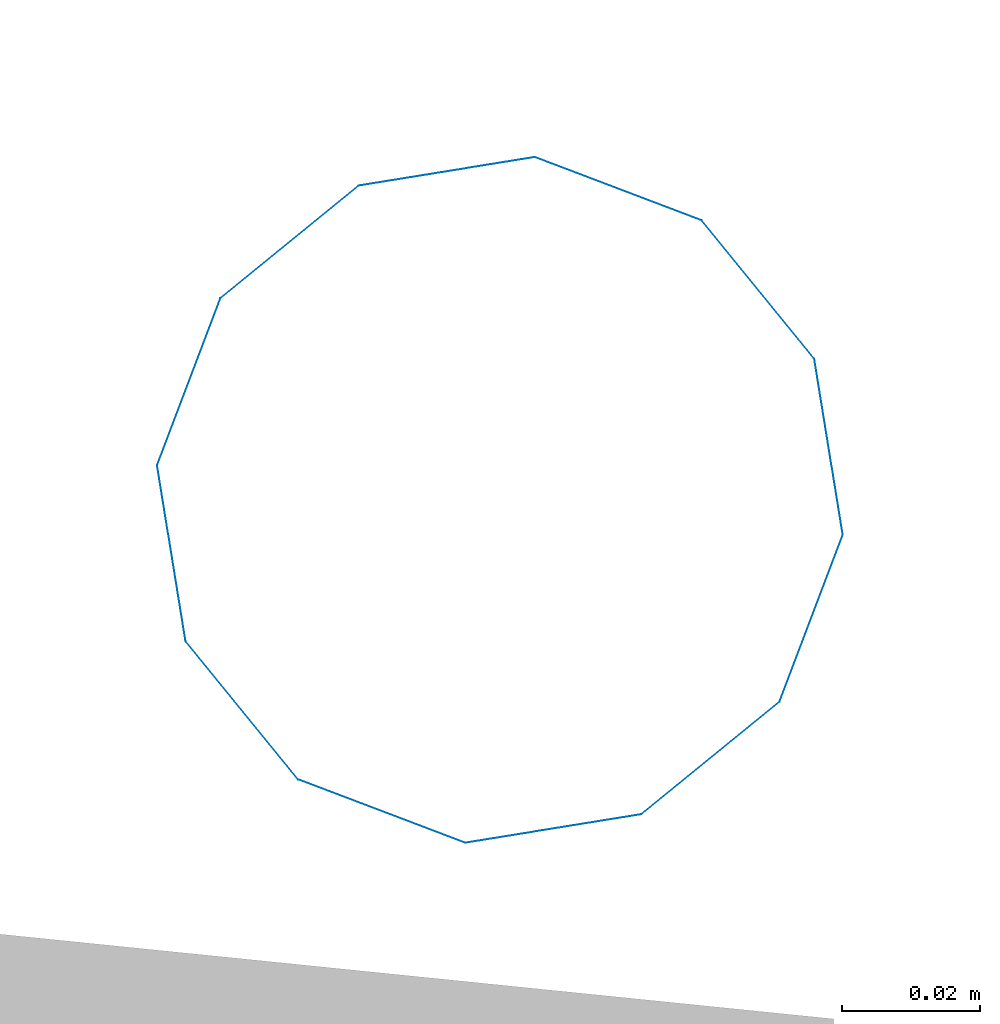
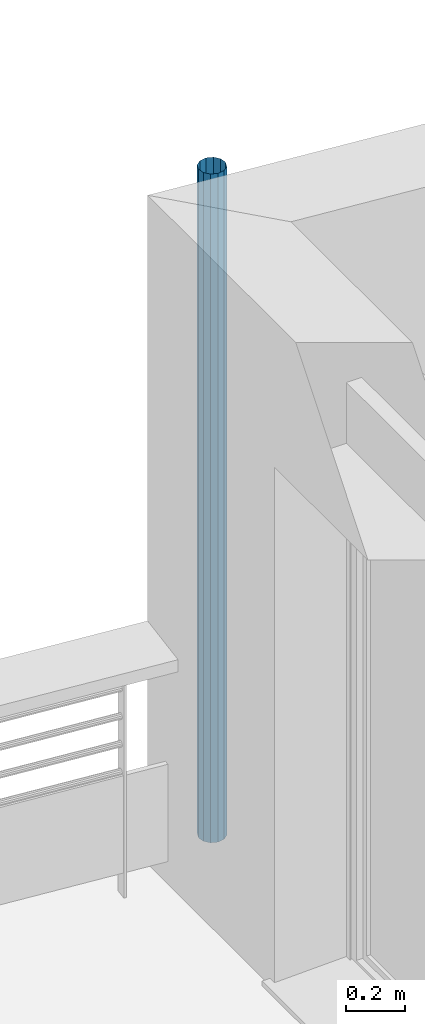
# One storey, part 84 of 164: 1 discrete accessory.
"""IFC2X3 building model written with IfcOpenShell, lengths in millimetres."""

from ifc_helpers import new_model, entity, si_unit, converted_unit, derived_unit, money_unit, direction, frame, origin_with_axes, place, context, subcontext, project, spatial, open_shell, surface_model, source, transform, mapped, type_object, element, save


model = new_model("IFC2X3")

# Units and contexts
model_context = context("Model", 3, precision=0.01, world=origin_with_axes(), true_north=direction((0.0, 1.0)))
body_context = subcontext(model_context, "Body", "Model", "MODEL_VIEW")
ifc_project = project(units=[si_unit("LENGTHUNIT", "METRE", prefix="MILLI"), si_unit("AREAUNIT", "SQUARE_METRE"), si_unit("VOLUMEUNIT", "CUBIC_METRE"), converted_unit("PLANEANGLEUNIT", "DEGREE", entity("IfcPlaneAngleMeasure", 0.0174532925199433), si_unit("PLANEANGLEUNIT", "RADIAN"), dimensions=[0, 0, 0, 0, 0, 0, 0]), money_unit("USD"), converted_unit("TIMEUNIT", "Year", entity("IfcTimeMeasure", 31557600.0), si_unit("TIMEUNIT", "SECOND"), dimensions=[0, 0, 1, 0, 0, 0, 0]), si_unit("MASSUNIT", "GRAM", prefix="KILO"), si_unit("THERMODYNAMICTEMPERATUREUNIT", "DEGREE_CELSIUS"), si_unit("LUMINOUSINTENSITYUNIT", "LUMEN"), si_unit("ENERGYUNIT", "JOULE", prefix="MEGA"), derived_unit("THERMALCONDUCTANCEUNIT", [(si_unit("POWERUNIT", "WATT"), 1), (si_unit("LENGTHUNIT", "METRE"), -1), (si_unit("THERMODYNAMICTEMPERATUREUNIT", "KELVIN"), -1)]), derived_unit("SPECIFICHEATCAPACITYUNIT", [(si_unit("ENERGYUNIT", "JOULE"), 1), (si_unit("MASSUNIT", "GRAM", prefix="KILO"), -1), (si_unit("THERMODYNAMICTEMPERATUREUNIT", "KELVIN"), -1)]), derived_unit("MASSDENSITYUNIT", [(si_unit("MASSUNIT", "GRAM", prefix="KILO"), 1), (si_unit("VOLUMEUNIT", "CUBIC_METRE"), -1)])], contexts=[model_context])

# Site, building, storey
site_placement = place(None, origin_with_axes())
site = spatial("IfcSite", under=ifc_project, at=site_placement, Name="Site", CompositionType="ELEMENT")
building_placement = place(site_placement, origin_with_axes())
building = spatial("IfcBuilding", under=site, at=building_placement, Name="Bâtiment", CompositionType="ELEMENT")
storey_placement = place(building_placement, frame((0.0, 0.0, 5750.0), z_axis=(0.0, 0.0, 1.0), x_axis=(1.0, 0.0, 0.0)))
storey = spatial("IfcBuildingStorey", under=building, at=storey_placement, Name="Etage1", CompositionType="ELEMENT", Elevation=5750.0)

# Discrete accessory
discrete_accessory_type = type_object("IfcDiscreteAccessoryType", Name="Tuyau descente 27")
shared_shape = source(origin_with_axes(), body_context, "Body", "SurfaceModel", [
    surface_model("IfcShellBasedSurfaceModel", [(-50.0, 0.0, 2750.0), (-50.0, 0.0, 0.0), (-43.30127018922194, -25.0, 0.0), (-43.30127018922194, -25.0, 2750.0), (-43.30127018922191, 25.00000000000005, 2750.0), (-43.30127018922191, 25.00000000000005, 0.0), (-25.00000000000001, -43.30127018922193, 0.0), (-25.00000000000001, -43.30127018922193, 2750.0), (-24.99999999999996, 43.30127018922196, 2750.0), (-24.99999999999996, 43.30127018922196, 0.0), (0.0, -50.0, 0.0), (0.0, -50.0, 2750.0), (0.0, 50.0, 2750.0), (0.0, 50.0, 0.0), (24.99999999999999, -43.30127018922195, 0.0), (24.99999999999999, -43.30127018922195, 2750.0), (25.00000000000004, 43.30127018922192, 2750.0), (25.00000000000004, 43.30127018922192, 0.0), (43.30127018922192, -25.00000000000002, 0.0), (43.30127018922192, -25.00000000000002, 2750.0), (43.30127018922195, 24.99999999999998, 2750.0), (43.30127018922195, 24.99999999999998, 0.0), (50.0, 0.0, 0.0), (50.0, 0.0, 2750.0)], [open_shell([[[0, 1, 2, 3]], [[4, 5, 1, 0]], [[3, 2, 6, 7]], [[8, 9, 5, 4]], [[7, 6, 10, 11]], [[12, 13, 9, 8]], [[11, 10, 14, 15]], [[16, 17, 13, 12]], [[15, 14, 18, 19]], [[20, 21, 17, 16]], [[19, 18, 22, 23]], [[23, 22, 21, 20]]])]),
])
discrete_accessory_placement = place(storey_placement, frame((2218409.139648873, -603953.0508855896, 0.0), z_axis=(0.0, 0.0, 1.0), x_axis=(-0.9948759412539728, 0.1011032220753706, 0.0)))
element("IfcDiscreteAccessory", 1, at=discrete_accessory_placement, inside=storey, type_object=discrete_accessory_type, Name="Obj.-318", context=body_context, shape_type="MappedRepresentation", body=[
    mapped(shared_shape, transform((0.0, 0.0, 0.0))),
])

save(model, "model.ifc")
